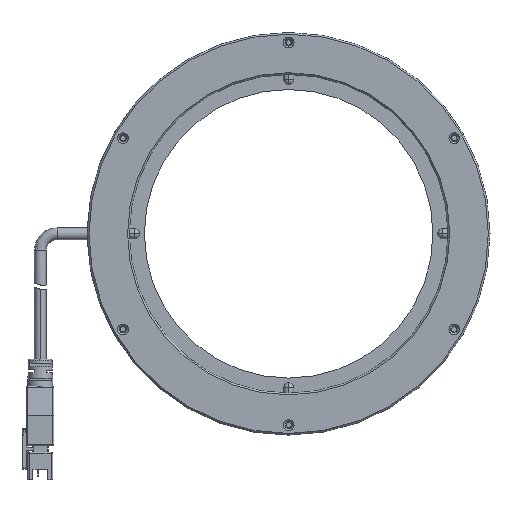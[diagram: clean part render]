
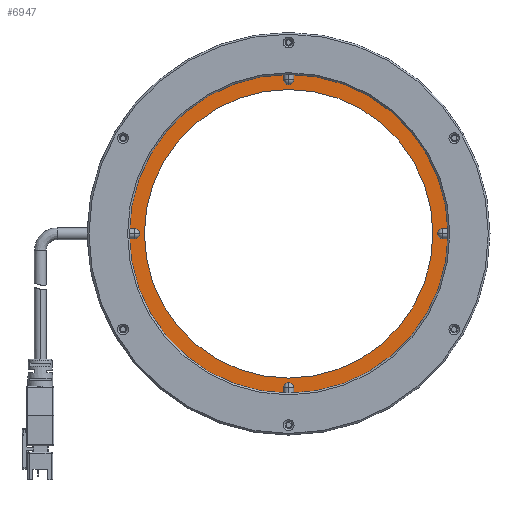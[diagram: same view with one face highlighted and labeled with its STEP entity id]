
A CAD part, front view. The second image highlights one B-rep face of the part: STEP entity #6947.
In plain terms, the highlighted planar face has unit normal (0, -1, 0).
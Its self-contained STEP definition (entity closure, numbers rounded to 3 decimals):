
#219 = CIRCLE ( 'NONE', #2641, 43. ) ;
#261 = CIRCLE ( 'NONE', #6011, 49. ) ;
#494 = VERTEX_POINT ( 'NONE', #4959 ) ;
#612 = VERTEX_POINT ( 'NONE', #6666 ) ;
#1385 = ORIENTED_EDGE ( 'NONE', *, *, #9543, .T. ) ;
#1835 = EDGE_LOOP ( 'NONE', ( #6898, #8181 ) ) ;
#2072 = DIRECTION ( 'NONE',  ( 0., -1., 0. ) ) ;
#2295 = AXIS2_PLACEMENT_3D ( 'NONE', #3893, #6274, #7828 ) ;
#2641 = AXIS2_PLACEMENT_3D ( 'NONE', #3921, #3952, #3888 ) ;
#2928 = CIRCLE ( 'NONE', #2295, 49. ) ;
#3420 = EDGE_LOOP ( 'NONE', ( #1385, #3846 ) ) ;
#3846 = ORIENTED_EDGE ( 'NONE', *, *, #4313, .T. ) ;
#3888 = DIRECTION ( 'NONE',  ( 0., 0., 1. ) ) ;
#3893 = CARTESIAN_POINT ( 'NONE',  ( 0., -1.8, 0. ) ) ;
#3921 = CARTESIAN_POINT ( 'NONE',  ( 0., -1.8, 0. ) ) ;
#3952 = DIRECTION ( 'NONE',  ( 0., 1., 0. ) ) ;
#4281 = DIRECTION ( 'NONE',  ( 0., 1., 0. ) ) ;
#4313 = EDGE_CURVE ( 'NONE', #612, #8615, #8979, .T. ) ;
#4812 = CARTESIAN_POINT ( 'NONE',  ( 0., -1.8, 0. ) ) ;
#4959 = CARTESIAN_POINT ( 'NONE',  ( 0., -1.8, 49. ) ) ;
#5072 = DIRECTION ( 'NONE',  ( 0., 0., 1. ) ) ;
#6011 = AXIS2_PLACEMENT_3D ( 'NONE', #9053, #4281, #5072 ) ;
#6088 = AXIS2_PLACEMENT_3D ( 'NONE', #8510, #2072, #9327 ) ;
#6274 = DIRECTION ( 'NONE',  ( 0., 1., 0. ) ) ;
#6646 = CARTESIAN_POINT ( 'NONE',  ( 0., -1.8, -49. ) ) ;
#6666 = CARTESIAN_POINT ( 'NONE',  ( 0., -1.8, -43. ) ) ;
#6698 = VERTEX_POINT ( 'NONE', #6646 ) ;
#6706 = EDGE_CURVE ( 'NONE', #6698, #494, #261, .T. ) ;
#6892 = PLANE ( 'NONE',  #6088 ) ;
#6898 = ORIENTED_EDGE ( 'NONE', *, *, #7057, .F. ) ;
#6947 = ADVANCED_FACE ( 'NONE', ( #8318, #6948 ), #6892, .T. ) ;
#6948 = FACE_OUTER_BOUND ( 'NONE', #1835, .T. ) ;
#7057 = EDGE_CURVE ( 'NONE', #494, #6698, #2928, .T. ) ;
#7203 = AXIS2_PLACEMENT_3D ( 'NONE', #4812, #9661, #10374 ) ;
#7707 = CARTESIAN_POINT ( 'NONE',  ( 0., -1.8, 43. ) ) ;
#7828 = DIRECTION ( 'NONE',  ( 0., 0., 1. ) ) ;
#8181 = ORIENTED_EDGE ( 'NONE', *, *, #6706, .F. ) ;
#8318 = FACE_BOUND ( 'NONE', #3420, .T. ) ;
#8510 = CARTESIAN_POINT ( 'NONE',  ( 43., -1.8, 0. ) ) ;
#8615 = VERTEX_POINT ( 'NONE', #7707 ) ;
#8979 = CIRCLE ( 'NONE', #7203, 43. ) ;
#9053 = CARTESIAN_POINT ( 'NONE',  ( 0., -1.8, 0. ) ) ;
#9327 = DIRECTION ( 'NONE',  ( 0., 0., -1. ) ) ;
#9543 = EDGE_CURVE ( 'NONE', #8615, #612, #219, .T. ) ;
#9661 = DIRECTION ( 'NONE',  ( 0., 1., 0. ) ) ;
#10374 = DIRECTION ( 'NONE',  ( 0., 0., 1. ) ) ;
